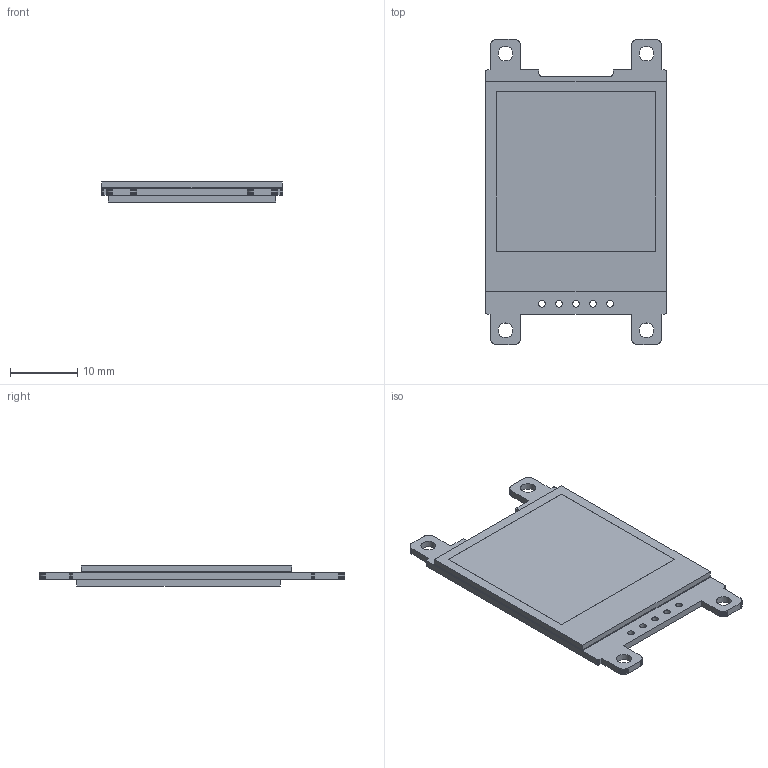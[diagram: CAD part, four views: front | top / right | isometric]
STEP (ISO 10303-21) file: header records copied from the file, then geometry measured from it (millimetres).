
FILE_DESCRIPTION(('FreeCAD Model'),'2;1');
FILE_NAME('Open CASCADE Shape Model','2026-11-01T13:57:21',('Author'),( ''),'Open CASCADE STEP processor 7.8','FreeCAD','Unknown');
FILE_SCHEMA(('AUTOMOTIVE_DESIGN { 1 0 10303 214 1 1 1 1 }'));
Length unit declared in the file: millimetre
Products named in the file (11): ColorView_WithEars; ColorViewPCB; UndersideClearanceEnvelope; Adhesive; DisplayBezel; DisplaySurface; Contact1; Contact2; Contact3; Contact4; Contact5
Assembly tree (10 placements, depth 2):
  ColorView_WithEars
    ColorViewPCB
    UndersideClearanceEnvelope
    Adhesive
    DisplayBezel
    DisplaySurface
    Contact1
    Contact2
    Contact3
    Contact4
    Contact5
Bounding box: 26.99 x 45.48 x 3 mm (x, y, z)
Volume: 2630.1 mm3; surface area: 8521.4 mm2
Topology: 10 solids, 10 shells, 351 faces, 990 edges, 660 vertices
Faces by surface type: plane 333, cylinder 18
Full cylindrical faces by diameter (mm): 1 x10, 1.7 x4, 2.2 x4
Entity records: 11454 total; most frequent: CARTESIAN_POINT 2012, ORIENTED_EDGE 1980, DIRECTION 1750, EDGE_CURVE 990, LINE 954, VECTOR 954, VERTEX_POINT 660, AXIS2_PLACEMENT_3D 398
